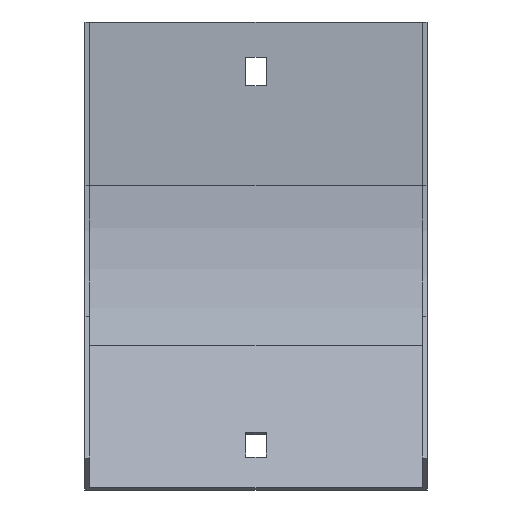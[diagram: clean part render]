
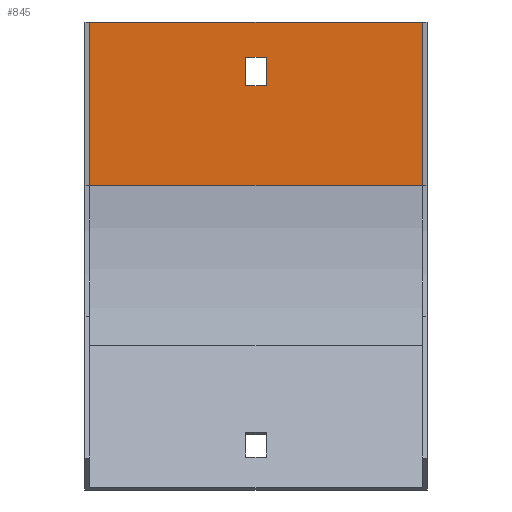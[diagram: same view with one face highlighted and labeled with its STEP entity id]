
A CAD part, front view. The second image highlights one B-rep face of the part: STEP entity #845.
In plain terms, the highlighted planar face has unit normal (0, -1, 0).
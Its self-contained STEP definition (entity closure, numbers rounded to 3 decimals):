
#6 = ORIENTED_EDGE ( 'NONE', *, *, #497, .T. ) ;
#16 = CARTESIAN_POINT ( 'NONE',  ( 3.25, -1.5, -20. ) ) ;
#27 = CARTESIAN_POINT ( 'NONE',  ( 52., -1.5, -51.2 ) ) ;
#31 = EDGE_CURVE ( 'NONE', #127, #340, #402, .T. ) ;
#42 = VERTEX_POINT ( 'NONE', #16 ) ;
#50 = VECTOR ( 'NONE', #676, 1000. ) ;
#51 = FACE_OUTER_BOUND ( 'NONE', #505, .T. ) ;
#61 = CARTESIAN_POINT ( 'NONE',  ( 3.25, -1.5, 0. ) ) ;
#63 = CARTESIAN_POINT ( 'NONE',  ( 3.25, -1.5, -11. ) ) ;
#79 = CARTESIAN_POINT ( 'NONE',  ( 52., -1.5, -51.2 ) ) ;
#85 = LINE ( 'NONE', #622, #50 ) ;
#104 = ORIENTED_EDGE ( 'NONE', *, *, #337, .F. ) ;
#111 = FACE_BOUND ( 'NONE', #716, .T. ) ;
#115 = VERTEX_POINT ( 'NONE', #339 ) ;
#127 = VERTEX_POINT ( 'NONE', #554 ) ;
#132 = VERTEX_POINT ( 'NONE', #746 ) ;
#137 = EDGE_CURVE ( 'NONE', #42, #620, #168, .T. ) ;
#145 = CARTESIAN_POINT ( 'NONE',  ( 52., -1.5, 0. ) ) ;
#156 = VECTOR ( 'NONE', #692, 1000. ) ;
#160 = EDGE_CURVE ( 'NONE', #115, #42, #598, .T. ) ;
#165 = CARTESIAN_POINT ( 'NONE',  ( -3.25, -1.5, 0. ) ) ;
#168 = LINE ( 'NONE', #61, #440 ) ;
#170 = LINE ( 'NONE', #165, #492 ) ;
#201 = DIRECTION ( 'NONE',  ( 0., -1., 0. ) ) ;
#215 = CARTESIAN_POINT ( 'NONE',  ( 53.5, -1.5, 0. ) ) ;
#245 = DIRECTION ( 'NONE',  ( -1., 0., 0. ) ) ;
#266 = VECTOR ( 'NONE', #245, 1000. ) ;
#283 = VECTOR ( 'NONE', #455, 1000. ) ;
#293 = CARTESIAN_POINT ( 'NONE',  ( 53.5, -1.5, 0. ) ) ;
#303 = DIRECTION ( 'NONE',  ( 0., 0., -1. ) ) ;
#318 = VERTEX_POINT ( 'NONE', #145 ) ;
#337 = EDGE_CURVE ( 'NONE', #847, #127, #482, .T. ) ;
#339 = CARTESIAN_POINT ( 'NONE',  ( -3.25, -1.5, -20. ) ) ;
#340 = VERTEX_POINT ( 'NONE', #745 ) ;
#364 = EDGE_CURVE ( 'NONE', #620, #132, #85, .T. ) ;
#367 = DIRECTION ( 'NONE',  ( 0., 0., 1. ) ) ;
#368 = ORIENTED_EDGE ( 'NONE', *, *, #364, .F. ) ;
#377 = LINE ( 'NONE', #27, #537 ) ;
#390 = ORIENTED_EDGE ( 'NONE', *, *, #671, .F. ) ;
#402 = LINE ( 'NONE', #754, #602 ) ;
#440 = VECTOR ( 'NONE', #367, 1000. ) ;
#455 = DIRECTION ( 'NONE',  ( 1., 0., 0. ) ) ;
#459 = EDGE_CURVE ( 'NONE', #847, #318, #377, .T. ) ;
#467 = DIRECTION ( 'NONE',  ( 0., 0., -1. ) ) ;
#482 = LINE ( 'NONE', #485, #156 ) ;
#485 = CARTESIAN_POINT ( 'NONE',  ( 53.5, -1.5, -51.2 ) ) ;
#492 = VECTOR ( 'NONE', #303, 1000. ) ;
#497 = EDGE_CURVE ( 'NONE', #318, #340, #697, .T. ) ;
#499 = CARTESIAN_POINT ( 'NONE',  ( 53.5, -1.5, -20. ) ) ;
#500 = ORIENTED_EDGE ( 'NONE', *, *, #31, .F. ) ;
#505 = EDGE_LOOP ( 'NONE', ( #500, #104, #603, #6 ) ) ;
#521 = PLANE ( 'NONE',  #798 ) ;
#537 = VECTOR ( 'NONE', #581, 1000. ) ;
#554 = CARTESIAN_POINT ( 'NONE',  ( -52., -1.5, -51.2 ) ) ;
#558 = DIRECTION ( 'NONE',  ( 0., 0., 1. ) ) ;
#581 = DIRECTION ( 'NONE',  ( 0., 0., 1. ) ) ;
#598 = LINE ( 'NONE', #499, #283 ) ;
#602 = VECTOR ( 'NONE', #558, 1000. ) ;
#603 = ORIENTED_EDGE ( 'NONE', *, *, #459, .T. ) ;
#620 = VERTEX_POINT ( 'NONE', #63 ) ;
#622 = CARTESIAN_POINT ( 'NONE',  ( 53.5, -1.5, -11. ) ) ;
#671 = EDGE_CURVE ( 'NONE', #132, #115, #170, .T. ) ;
#676 = DIRECTION ( 'NONE',  ( -1., 0., 0. ) ) ;
#690 = ORIENTED_EDGE ( 'NONE', *, *, #137, .F. ) ;
#692 = DIRECTION ( 'NONE',  ( -1., 0., 0. ) ) ;
#697 = LINE ( 'NONE', #293, #266 ) ;
#716 = EDGE_LOOP ( 'NONE', ( #390, #368, #690, #755 ) ) ;
#745 = CARTESIAN_POINT ( 'NONE',  ( -52., -1.5, 0. ) ) ;
#746 = CARTESIAN_POINT ( 'NONE',  ( -3.25, -1.5, -11. ) ) ;
#754 = CARTESIAN_POINT ( 'NONE',  ( -52., -1.5, -51.2 ) ) ;
#755 = ORIENTED_EDGE ( 'NONE', *, *, #160, .F. ) ;
#798 = AXIS2_PLACEMENT_3D ( 'NONE', #215, #201, #467 ) ;
#845 = ADVANCED_FACE ( 'NONE', ( #111, #51 ), #521, .T. ) ;
#847 = VERTEX_POINT ( 'NONE', #79 ) ;
